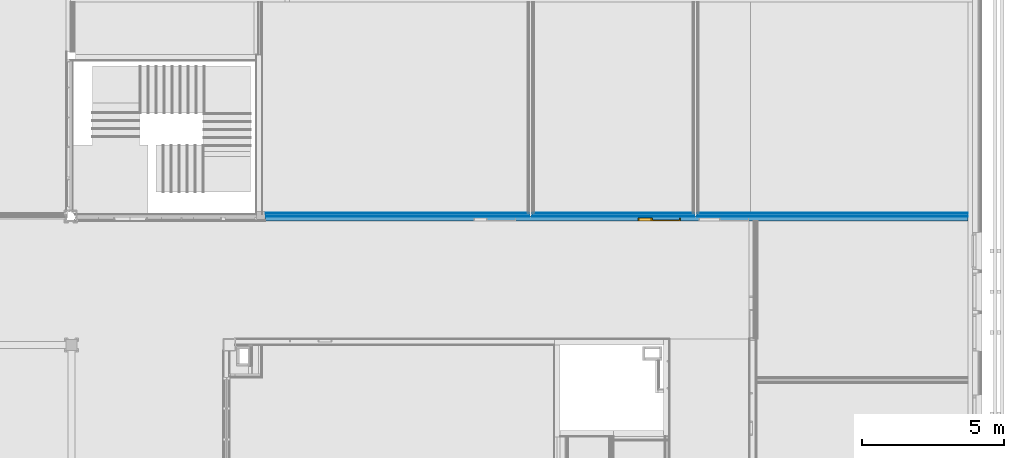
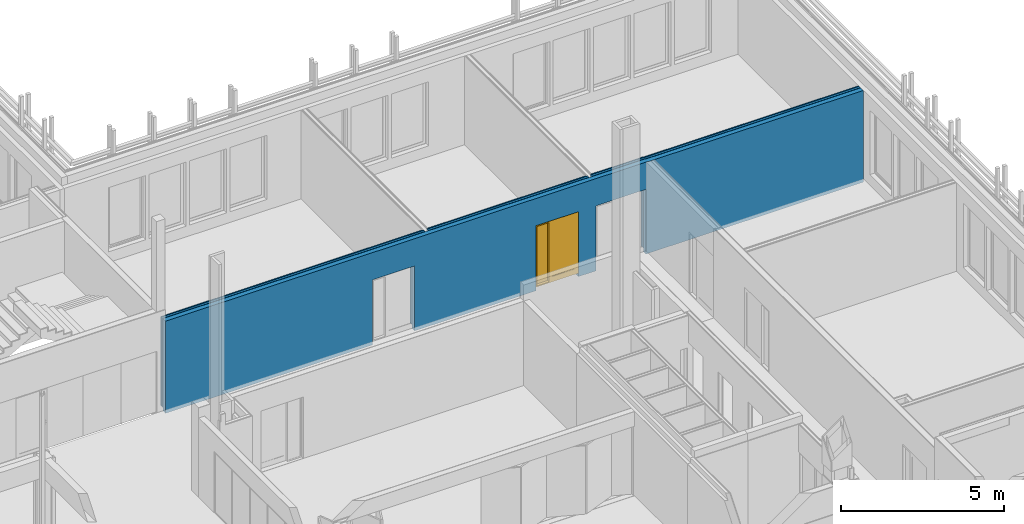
# One storey, part 67 of 139: 7 building element parts, 1 door, 3 openings, 1 element without a shape of its own.
"""IFC2X3 building model written with IfcOpenShell, lengths in millimetres."""

import ifcopenshell
import ifcopenshell.guid

model = None  # the IFC model being written
_history = None  # IfcOwnerHistory: only IFC2X3 demands one
_inside = {}  # id of a spatial element -> (the spatial element, [elements in it])
_under = {}  # id of a project, library or spatial element -> (it, [spatial elements below it])
_declared = {}  # id of a project -> (the project, [libraries it declares])
_typed = {}  # id of a type object -> (the type object, [elements of that type])
_made_of = {}  # id of a material, layer set ... -> (it, [elements and type objects made of it])


def new_model(schema):
    """Start an empty IFC model of exactly this schema.

    Asked for "IFC4X3", IfcOpenShell would pick the latest addendum, in which some entities
    have other attributes; the version numbers below select the first issue.
    IFC2X3 requires an IfcOwnerHistory on every rooted entity: one is made here for all.
    """
    global model, _history
    if schema == "IFC4X3":
        model = ifcopenshell.file(schema_version=(4, 3, 0, 0))
    else:
        model = ifcopenshell.file(schema=schema)
    _inside.clear()
    _under.clear()
    _declared.clear()
    _typed.clear()
    _made_of.clear()
    _history = None
    if model.schema == "IFC2X3":
        org = make("IfcOrganization", Name="unknown")
        user = make(
            "IfcPersonAndOrganization",
            ThePerson=make("IfcPerson", FamilyName="unknown"),
            TheOrganization=org,
        )
        app = make(
            "IfcApplication",
            ApplicationDeveloper=org,
            Version="unknown",
            ApplicationFullName="unknown",
            ApplicationIdentifier="unknown",
        )
        _history = make(
            "IfcOwnerHistory",
            OwningUser=user,
            OwningApplication=app,
            ChangeAction="ADDED",
            CreationDate=0,
        )
    return model


def make(cls, **values):
    """One entity of the class cls with the attributes given. An attribute that is None is left unset."""
    return model.create_entity(
        cls, **{name: value for name, value in values.items() if value is not None}
    )


def entity(cls, *values):
    """Any entity or typed value of the class cls, its attributes in the order of the schema. None: left unset."""
    e = model.create_entity(cls)
    for i, value in enumerate(values):
        if value is not None:
            e[i] = value
    return e


def rooted(cls, **values):
    """An entity with a GlobalId (a new one), such as an element, a storey or a relation."""
    return make(cls, GlobalId=ifcopenshell.guid.new(), OwnerHistory=_history, **values)


def si_unit(unit_type, name, prefix=None):
    """IfcSIUnit, for example si_unit("LENGTHUNIT", "METRE", prefix="MILLI")."""
    return make("IfcSIUnit", UnitType=unit_type, Prefix=prefix, Name=name)


def converted_unit(unit_type, name, factor, base, dimensions=None, offset=None):
    """IfcConversionBasedUnit, such as the inch: factor (a typed value) times the base unit."""
    return make(
        "IfcConversionBasedUnit"
        if offset is None
        else "IfcConversionBasedUnitWithOffset",
        ConversionOffset=offset,
        Dimensions=None
        if dimensions is None
        else entity("IfcDimensionalExponents", *dimensions),
        UnitType=unit_type,
        Name=name,
        ConversionFactor=make(
            "IfcMeasureWithUnit", ValueComponent=factor, UnitComponent=base
        ),
    )


def derived_unit(unit_type, elements):
    """IfcDerivedUnit: a product of units, each with its exponent."""
    return make(
        "IfcDerivedUnit",
        Elements=[
            make("IfcDerivedUnitElement", Unit=unit, Exponent=power)
            for unit, power in elements
        ],
        UnitType=unit_type,
    )


def money_unit(currency):
    """IfcMonetaryUnit."""
    return make("IfcMonetaryUnit", Currency=currency)


def assignment(units):
    """IfcUnitAssignment: the units of a project."""
    return None if units is None else make("IfcUnitAssignment", Units=units)


def point(xyz):
    """IfcCartesianPoint."""
    return None if xyz is None else make("IfcCartesianPoint", Coordinates=xyz)


def direction(xyz):
    """IfcDirection."""
    return None if xyz is None else make("IfcDirection", DirectionRatios=xyz)


def frame(location, z_axis=None, x_axis=None):
    """IfcAxis2Placement3D, a coordinate frame: its origin and axes. An axis left out is left unset."""
    return make(
        "IfcAxis2Placement3D",
        Location=point(location),
        Axis=direction(z_axis),
        RefDirection=direction(x_axis),
    )


def origin_with_axes():
    """The frame at (0, 0, 0) with the z axis (0, 0, 1) and the x axis (1, 0, 0) written out."""
    return frame((0.0, 0.0, 0.0), z_axis=(0.0, 0.0, 1.0), x_axis=(1.0, 0.0, 0.0))


def place(relative_to, where):
    """IfcLocalPlacement: puts the frame where relative to a parent placement (None: the world)."""
    return make(
        "IfcLocalPlacement", PlacementRelTo=relative_to, RelativePlacement=where
    )


def context(
    kind, dimensions, precision=None, world=None, true_north=None, identifier=None
):
    """IfcGeometricRepresentationContext, for example the 3D "Model" context."""
    return make(
        "IfcGeometricRepresentationContext",
        ContextIdentifier=identifier,
        ContextType=kind,
        CoordinateSpaceDimension=dimensions,
        Precision=precision,
        WorldCoordinateSystem=world,
        TrueNorth=true_north,
    )


def subcontext(parent, identifier, kind, view, scale=None):
    """IfcGeometricRepresentationSubContext, for example "Body" below "Model"."""
    return make(
        "IfcGeometricRepresentationSubContext",
        ContextIdentifier=identifier,
        ContextType=kind,
        ParentContext=parent,
        TargetScale=scale,
        TargetView=view,
    )


def project(units=None, contexts=None):
    """IfcProject with its units and contexts."""
    return rooted(
        "IfcProject",
        Name="project",
        RepresentationContexts=contexts,
        UnitsInContext=assignment(units),
    )


def spatial(cls, under=None, at=None, **own):
    """A site, building, storey or space (cls), placed at a placement, below another one or the project."""
    s = rooted(cls, ObjectPlacement=at, **own)
    if under is not None:
        _under.setdefault(under.id(), (under, []))[1].append(s)
    return s


def faces_of(points, faces, orient=None, outer=None):
    """IfcFace entities. A face is a list of loops; a loop is a list of indices into points, from 0.

    orient and outer hold one flag for each loop. By default every Orientation is true, the
    first loop of a face is its IfcFaceOuterBound and the others are IfcFaceBound.
    """
    made = []
    for i, loops in enumerate(faces):
        bounds = []
        for j, loop in enumerate(loops):
            is_outer = j == 0 if outer is None else outer[i][j]
            bounds.append(
                make(
                    "IfcFaceOuterBound" if is_outer else "IfcFaceBound",
                    Bound=make("IfcPolyLoop", Polygon=[points[k] for k in loop]),
                    Orientation=True if orient is None else orient[i][j],
                )
            )
        made.append(make("IfcFace", Bounds=bounds))
    return made


def open_shell(faces, orient=None, outer=None):
    """The faces of one IfcOpenShell. surface_model builds it on its shared points."""
    return ("IfcOpenShell", faces, orient, outer)


def faceted_brep(points, faces, orient=None, outer=None, voids=None):
    """IfcFacetedBrep: a solid bounded by flat faces; with voids (closed shells), ...WithVoids."""
    shared = [point(p) for p in points]
    hull = make("IfcClosedShell", CfsFaces=faces_of(shared, faces, orient, outer))
    if voids is None:
        return make("IfcFacetedBrep", Outer=hull)
    return make(
        "IfcFacetedBrepWithVoids",
        Outer=hull,
        Voids=[
            make(cls, CfsFaces=faces_of(shared, fs, o, b)) for cls, fs, o, b in voids
        ],
    )


def surface_model(cls, points, shells):
    """IfcFaceBasedSurfaceModel or IfcShellBasedSurfaceModel (cls): surfaces that need not close."""
    shared = [point(p) for p in points]
    made = [make(c, CfsFaces=faces_of(shared, fs, o, b)) for c, fs, o, b in shells]
    if cls == "IfcFaceBasedSurfaceModel":
        return make(cls, FbsmFaces=made)
    return make(cls, SbsmBoundary=made)


def shape(context_of_items, identifier, shape_type, items):
    """IfcShapeRepresentation: the items that make up one representation, for example the "Body"."""
    return make(
        "IfcShapeRepresentation",
        ContextOfItems=context_of_items,
        RepresentationIdentifier=identifier,
        RepresentationType=shape_type,
        Items=items,
    )


def source(mapping_origin, context_of_items, identifier, shape_type, items):
    """IfcRepresentationMap: a shape defined once, which mapped items show again and again."""
    return make(
        "IfcRepresentationMap",
        MappingOrigin=mapping_origin,
        MappedRepresentation=shape(context_of_items, identifier, shape_type, items),
    )


def transform(
    local_origin,
    x_axis=None,
    y_axis=None,
    z_axis=None,
    scale=None,
    scale2=None,
    scale3=None,
    uniform=True,
):
    """IfcCartesianTransformationOperator3D, or its non-uniform kind. x_axis, y_axis, z_axis: its Axis1, 2, 3."""
    if uniform:
        return make(
            "IfcCartesianTransformationOperator3D",
            Axis1=direction(x_axis),
            Axis2=direction(y_axis),
            LocalOrigin=point(local_origin),
            Scale=scale,
            Axis3=direction(z_axis),
        )
    return make(
        "IfcCartesianTransformationOperator3DnonUniform",
        Axis1=direction(x_axis),
        Axis2=direction(y_axis),
        LocalOrigin=point(local_origin),
        Scale=scale,
        Axis3=direction(z_axis),
        Scale2=scale2,
        Scale3=scale3,
    )


def mapped(mapping_source, mapping_target):
    """IfcMappedItem: shows the shape of a source again, moved by a transform."""
    return make(
        "IfcMappedItem", MappingSource=mapping_source, MappingTarget=mapping_target
    )


def material(Name=None, Category=None):
    """IfcMaterial."""
    return make("IfcMaterial", Name=Name, Category=Category)


def made_of(thing, what):
    """Note that an element or type object is made of a material, layer set ...; save() writes the relation."""
    if what is not None:
        _made_of.setdefault(what.id(), (what, []))[1].append(thing)
    return thing


def type_object(cls, material=None, **own):
    """A type object (cls), such as IfcWallType, which elements share."""
    return made_of(rooted(cls, **own), material)


def element(
    cls,
    number,
    at=None,
    inside=None,
    cuts=None,
    type_object=None,
    material=None,
    context=None,
    identifier="Body",
    shape_type=None,
    held_by="IfcProductDefinitionShape",
    body=None,
    shapes=None,
    **own,
):
    """One element of the class cls, such as IfcWall. Its Tag is "e" and its number.

    at: its placement. inside: the storey or other place that contains it. cuts: it is an
    opening in that element (IfcRelVoidsElement). A single representation is given by context,
    identifier, shape_type and body (its items); several are given by shapes. held_by: the class
    of the entity that holds the representations. save() writes the other relations.
    """
    e = rooted(cls, Tag="e%d" % number, ObjectPlacement=at, **own)
    if body is not None:
        shapes = [shape(context, identifier, shape_type, body)]
    if shapes is not None:
        e.Representation = make(held_by, Representations=shapes)
    if inside is not None:
        _inside.setdefault(inside.id(), (inside, []))[1].append(e)
    if cuts is not None:
        rooted(
            "IfcRelVoidsElement", RelatingBuildingElement=cuts, RelatedOpeningElement=e
        )
    if type_object is not None:
        _typed.setdefault(type_object.id(), (type_object, []))[1].append(e)
    return made_of(e, material)


def fill(opening, filler):
    """IfcRelFillsElement: the door or window that sits in an opening."""
    return rooted(
        "IfcRelFillsElement",
        RelatingOpeningElement=opening,
        RelatedBuildingElement=filler,
    )


def aggregate(whole, parts):
    """IfcRelAggregates: a whole, such as a stair, and the parts it consists of."""
    return rooted("IfcRelAggregates", RelatingObject=whole, RelatedObjects=parts)


def save(model, path):
    """Write the relations noted so far, then the file.

    IfcRelAggregates (storeys below a building ...), IfcRelContainedInSpatialStructure (elements
    in a storey), IfcRelDefinesByType, IfcRelAssociatesMaterial and IfcRelDeclares: one each for
    every whole, place, type object, material and project.
    """
    for whole, parts in _under.values():
        aggregate(whole, parts)
    for where, things in _inside.values():
        rooted(
            "IfcRelContainedInSpatialStructure",
            RelatedElements=things,
            RelatingStructure=where,
        )
    for kind, things in _typed.values():
        rooted("IfcRelDefinesByType", RelatedObjects=things, RelatingType=kind)
    for what, things in _made_of.values():
        rooted("IfcRelAssociatesMaterial", RelatedObjects=things, RelatingMaterial=what)
    for by, libraries in _declared.values():
        rooted("IfcRelDeclares", RelatingContext=by, RelatedDefinitions=libraries)
    model.write(path)


model = new_model("IFC2X3")

# Units and contexts
model_context = context("Model", 3, precision=0.01, world=origin_with_axes(), true_north=direction((0.0, 1.0)))
body_context = subcontext(model_context, "Body", "Model", "MODEL_VIEW")
ifc_project = project(units=[si_unit("LENGTHUNIT", "METRE", prefix="MILLI"), si_unit("AREAUNIT", "SQUARE_METRE"), si_unit("VOLUMEUNIT", "CUBIC_METRE"), converted_unit("PLANEANGLEUNIT", "DEGREE", entity("IfcPlaneAngleMeasure", 0.0174532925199), si_unit("PLANEANGLEUNIT", "RADIAN"), dimensions=[0, 0, 0, 0, 0, 0, 0]), money_unit("EUR"), converted_unit("TIMEUNIT", "Year", entity("IfcTimeMeasure", 31556926.0), si_unit("TIMEUNIT", "SECOND"), dimensions=[0, 0, 1, 0, 0, 0, 0]), si_unit("MASSUNIT", "GRAM", prefix="KILO"), si_unit("THERMODYNAMICTEMPERATUREUNIT", "DEGREE_CELSIUS"), si_unit("LUMINOUSINTENSITYUNIT", "LUMEN"), si_unit("ENERGYUNIT", "JOULE", prefix="MEGA"), derived_unit("THERMALCONDUCTANCEUNIT", [(si_unit("POWERUNIT", "WATT"), 1), (si_unit("LENGTHUNIT", "METRE"), -1), (si_unit("THERMODYNAMICTEMPERATUREUNIT", "KELVIN"), -1)]), derived_unit("SPECIFICHEATCAPACITYUNIT", [(si_unit("ENERGYUNIT", "JOULE"), 1), (si_unit("MASSUNIT", "GRAM", prefix="KILO"), -1), (si_unit("THERMODYNAMICTEMPERATUREUNIT", "KELVIN"), -1)]), derived_unit("MASSDENSITYUNIT", [(si_unit("MASSUNIT", "GRAM", prefix="KILO"), 1), (si_unit("VOLUMEUNIT", "CUBIC_METRE"), -1)])], contexts=[model_context])

# Site, building, storey
site_placement = place(None, origin_with_axes())
site = spatial("IfcSite", under=ifc_project, at=site_placement, Name="Kolde pst 67a", CompositionType="ELEMENT")
building_placement = place(site_placement, origin_with_axes())
building = spatial("IfcBuilding", under=site, at=building_placement, Name="Riigigümnaasium", CompositionType="ELEMENT")
storey_placement = place(building_placement, frame((0.0, 0.0, 4600.0), z_axis=(0.0, 0.0, 1.0), x_axis=(1.0, 0.0, 0.0)))
storey = spatial("IfcBuildingStorey", under=building, at=storey_placement, Name="2. korrus", CompositionType="ELEMENT", Elevation=4600.0)

# Door
door_style = type_object("IfcDoorStyle", Name="Door with Sidelight on Side 2 25", ConstructionType="NOTDEFINED", OperationType="SINGLE_SWING_LEFT", ParameterTakesPrecedence=False, Sizeable=False)
shared_shape = source(origin_with_axes(), body_context, "Body", "SurfaceModel", [
    faceted_brep([(750.0, 0.0, 0.0), (750.0, -115.0, 0.0), (710.0, -115.0, 0.0), (710.0, 0.0, 0.0), (750.0, 0.0, 2260.0), (750.0, -115.0, 2260.0), (710.0, -115.0, 2260.0), (710.0, -115.0, 40.0), (710.0, 0.0, 40.0), (710.0, 0.0, 2260.0)], [[[0, 1, 2, 3]], [[4, 5, 1, 0]], [[1, 5, 6, 7, 2]], [[3, 2, 7, 8]], [[0, 3, 8, 9, 4]], [[9, 6, 5, 4]], [[8, 7, 6, 9]]]),
    faceted_brep([(250.0, -40.0, 0.0), (250.0, -115.0, 0.0), (250.0, -115.0, 2260.0), (250.0, -40.0, 2260.0), (262.0, -40.0, 0.0), (262.0, 0.0, 0.0), (290.0, 0.0, 0.0), (290.0, -115.0, 0.0), (290.0, -115.0, 40.0), (290.0, -115.0, 2260.0), (262.0, -40.0, 2260.0), (290.0, 0.0, 2260.0), (262.0, 0.0, 2260.0), (290.0, 0.0, 40.0)], [[[0, 1, 2, 3]], [[4, 5, 6, 7, 1, 0]], [[7, 8, 9, 2, 1]], [[10, 3, 2, 9, 11, 12]], [[10, 4, 0, 3]], [[12, 5, 4, 10]], [[12, 11, 13, 6, 5]], [[6, 13, 8, 7]], [[13, 11, 9, 8]]]),
    faceted_brep([(710.0, 0.0, 40.0), (710.0, -115.0, 40.0), (710.0, -115.0, 0.0), (710.0, 0.0, 0.0), (290.0, 0.0, 40.0), (290.0, -115.0, 40.0), (290.0, -115.0, 0.0), (290.0, 0.0, 0.0)], [[[0, 1, 2, 3]], [[4, 5, 1, 0]], [[1, 5, 6, 2]], [[3, 2, 6, 7]], [[0, 3, 7, 4]], [[7, 6, 5, 4]]]),
    faceted_brep([(-722.0, -40.0, 2260.0), (-722.0, 0.0, 2260.0), (-750.0, 0.0, 2260.0), (-750.0, -115.0, 2260.0), (-710.0, -115.0, 2260.0), (-710.0, -40.0, 2260.0), (-722.0, -40.0, 0.0), (-722.0, 0.0, 0.0), (-750.0, 0.0, 0.0), (-750.0, -115.0, 0.0), (-710.0, -115.0, 0.0), (-710.0, -40.0, 0.0)], [[[0, 1, 2, 3, 4, 5]], [[0, 6, 7, 1]], [[7, 8, 2, 1]], [[2, 8, 9, 3]], [[3, 9, 10, 4]], [[5, 4, 10, 11]], [[5, 11, 6, 0]], [[6, 11, 10, 9, 8, 7]]]),
    faceted_brep([(262.0, 0.0, 2272.0), (-722.0, 0.0, 2272.0), (-722.0, 0.0, 2260.0), (-750.0, 0.0, 2260.0), (-750.0, 0.0, 2300.0), (750.0, 0.0, 2300.0), (750.0, 0.0, 2260.0), (710.0, 0.0, 2260.0), (290.0, 0.0, 2260.0), (262.0, 0.0, 2260.0), (262.0, -40.0, 2272.0), (-722.0, -40.0, 2272.0), (-722.0, -40.0, 2260.0), (-710.0, -40.0, 2260.0), (-710.0, -115.0, 2260.0), (-750.0, -115.0, 2260.0), (-750.0, -115.0, 2300.0), (750.0, -115.0, 2300.0), (750.0, -115.0, 2260.0), (710.0, -115.0, 2260.0), (290.0, -115.0, 2260.0), (262.0, -40.0, 2260.0), (250.0, -115.0, 2260.0)], [[[0, 1, 2, 3, 4, 5, 6, 7, 8, 9]], [[0, 10, 11, 1]], [[1, 11, 12, 2]], [[12, 13, 14, 15, 3, 2]], [[4, 3, 15, 16]], [[5, 4, 16, 17]], [[6, 5, 17, 18]], [[7, 6, 18, 19]], [[8, 7, 19, 20]], [[21, 9, 8, 20, 22, 14, 13]], [[9, 21, 10, 0]], [[12, 11, 10, 21, 13]], [[14, 22, 20, 19, 18, 17, 16, 15]]]),
    faceted_brep([(-722.0, 0.0, 200.0), (-622.0, 0.0, 200.0), (-622.0, -40.0, 200.0), (-722.0, -40.0, 200.0), (-722.0, 0.0, 2172.0), (-622.0, 0.0, 2172.0), (-622.0, -40.0, 2172.0), (-722.0, -40.0, 2172.0)], [[[0, 1, 2, 3]], [[0, 4, 5, 1]], [[1, 5, 6, 2]], [[3, 2, 6, 7]], [[4, 0, 3, 7]], [[5, 4, 7, 6]]]),
    faceted_brep([(262.0, 0.0, 200.0), (262.0, 0.0, 2172.0), (262.0, -40.0, 2172.0), (262.0, -40.0, 200.0), (162.0, 0.0, 200.0), (162.0, 0.0, 2172.0), (162.0, -40.0, 2172.0), (162.0, -40.0, 200.0)], [[[0, 1, 2, 3]], [[0, 4, 5, 1]], [[1, 5, 6, 2]], [[3, 2, 6, 7]], [[4, 0, 3, 7]], [[5, 4, 7, 6]]]),
    faceted_brep([(-722.0, 0.0, 0.0), (262.0, 0.0, 0.0), (262.0, -40.0, 0.0), (-722.0, -40.0, 0.0), (-722.0, 0.0, 200.0), (-622.0, 0.0, 200.0), (162.0, 0.0, 200.0), (262.0, 0.0, 200.0), (262.0, -40.0, 200.0), (162.0, -40.0, 200.0), (-622.0, -40.0, 200.0), (-722.0, -40.0, 200.0)], [[[0, 1, 2, 3]], [[0, 4, 5, 6, 7, 1]], [[1, 7, 8, 2]], [[3, 2, 8, 9, 10, 11]], [[4, 0, 3, 11]], [[5, 4, 11, 10]], [[6, 5, 10, 9]], [[7, 6, 9, 8]]]),
    faceted_brep([(-722.0, 0.0, 2272.0), (-722.0, 0.0, 2172.0), (-722.0, -40.0, 2172.0), (-722.0, -40.0, 2272.0), (262.0, 0.0, 2272.0), (262.0, 0.0, 2172.0), (162.0, 0.0, 2172.0), (-622.0, 0.0, 2172.0), (-622.0, -40.0, 2172.0), (162.0, -40.0, 2172.0), (262.0, -40.0, 2172.0), (262.0, -40.0, 2272.0)], [[[0, 1, 2, 3]], [[0, 4, 5, 6, 7, 1]], [[1, 7, 8, 2]], [[3, 2, 8, 9, 10, 11]], [[4, 0, 3, 11]], [[5, 4, 11, 10]], [[6, 5, 10, 9]], [[7, 6, 9, 8]]]),
    surface_model("IfcShellBasedSurfaceModel", [(-622.0, -14.0, 200.0), (-622.0, -14.0, 2172.0), (162.0, -14.0, 2172.0), (162.0, -14.0, 200.0)], [open_shell([[[0, 1, 2, 3]]])]),
    surface_model("IfcShellBasedSurfaceModel", [(-622.0, -26.0, 200.0), (162.0, -26.0, 200.0), (162.0, -26.0, 2172.0), (-622.0, -26.0, 2172.0)], [open_shell([[[0, 1, 2, 3]]])]),
    surface_model("IfcShellBasedSurfaceModel", [(710.0, -91.0, 40.0), (290.0, -91.0, 40.0), (290.0, -91.0, 2260.0), (710.0, -91.0, 2260.0)], [open_shell([[[0, 1, 2, 3]]])]),
    surface_model("IfcShellBasedSurfaceModel", [(710.0, -103.0, 40.0), (710.0, -103.0, 2260.0), (290.0, -103.0, 2260.0), (290.0, -103.0, 40.0)], [open_shell([[[0, 1, 2, 3]]])]),
])
wall_placement = place(storey_placement, frame((59580.0567695, 28589.9996998, -130.0), z_axis=(0.0, 0.0, 1.0), x_axis=(1.0, 0.0, 0.0)))
opening_1_placement = place(wall_placement, frame((13859.9892241, 0.0, 130.0), z_axis=(0.0, 0.0, 1.0), x_axis=(1.0, 0.0, 0.0)))
door_placement = place(opening_1_placement, frame((750.0, 0.0, 0.0), z_axis=(0.0, 0.0, 1.0), x_axis=(-1.0, 0.0, 0.0)))
door = element("IfcDoor", 1, at=door_placement, inside=storey, type_object=door_style, Name="Siseuks", ObjectType="DOOR", OverallHeight=2300.0, OverallWidth=1500.0, context=body_context, shape_type="MappedRepresentation", body=[
    mapped(shared_shape, transform((750.0, 0.0, 0.0))),
])

# Wall, opening
wall_type = type_object("IfcWallType", Name="SS-CLT-16/1_vill75+krohv 52 dB 300", PredefinedType="NOTDEFINED")
wall = element("IfcWall", 2, at=wall_placement, inside=storey, type_object=wall_type, Name="Sisesein")
opening_1 = element("IfcOpeningElement", 3, at=opening_1_placement, cuts=wall, Name="Siseuks", context=body_context, shape_type="Brep", body=[
    faceted_brep([(750.0, -600.0, 2300.0), (750.0, -600.0, 0.0), (750.0, 300.0, 0.0), (750.0, 300.0, 2300.0), (-750.0, -600.0, 2300.0), (-750.0, -600.0, 0.0), (-750.0, 300.0, 0.0), (-750.0, 300.0, 2300.0)], [[[0, 1, 2, 3]], [[0, 4, 5, 1]], [[1, 5, 6, 2]], [[3, 2, 6, 7]], [[4, 0, 3, 7]], [[5, 4, 7, 6]]]),
])

fill(opening_1, door)

# Opening
opening_2_placement = place(wall_placement, frame((16119.9450194, 0.0, 130.0), z_axis=(0.0, 0.0, 1.0), x_axis=(1.0, 0.0, 0.0)))
element("IfcOpeningElement", 4, at=opening_2_placement, cuts=wall, Name="Siseuks", context=body_context, shape_type="Brep", body=[
    faceted_brep([(890.0, -600.0, 2300.0), (890.0, -600.0, 0.0), (890.0, 300.0, 0.0), (890.0, 300.0, 2300.0), (-890.0, -600.0, 2300.0), (-890.0, -600.0, 0.0), (-890.0, 300.0, 0.0), (-890.0, 300.0, 2300.0)], [[[0, 1, 2, 3]], [[0, 4, 5, 1]], [[1, 5, 6, 2]], [[3, 2, 6, 7]], [[4, 0, 3, 7]], [[5, 4, 7, 6]]]),
])

opening_3_placement = place(wall_placement, frame((8069.93597543, 0.0, 130.0), z_axis=(0.0, 0.0, 1.0), x_axis=(1.0, 0.0, 0.0)))
element("IfcOpeningElement", 5, at=opening_3_placement, cuts=wall, Name="Siseuks", context=body_context, shape_type="Brep", body=[
    faceted_brep([(750.0, -600.0, 2300.0), (750.0, -600.0, 0.0), (750.0, 300.0, 0.0), (750.0, 300.0, 2300.0), (-750.0, -600.0, 2300.0), (-750.0, -600.0, 0.0), (-750.0, 300.0, 0.0), (-750.0, 300.0, 2300.0)], [[[0, 1, 2, 3]], [[0, 4, 5, 1]], [[1, 5, 6, 2]], [[3, 2, 6, 7]], [[4, 0, 3, 7]], [[5, 4, 7, 6]]]),
])

# Building element part
ifc_material_1 = material(Name="_VIIMISTLUSKIHT - viimistlus vastavalt SA osale")
building_element_part_1_placement = place(wall_placement, origin_with_axes())
building_element_part_1 = element("IfcBuildingElementPart", 6, at=building_element_part_1_placement, material=ifc_material_1, Name="_VIIMISTLUSKIHT - viimistlus vastavalt SA osale", context=body_context, shape_type="Brep", body=[
    faceted_brep([(13109.9892241, 300.0, 2430.0), (13109.9892241, 300.0, 130.0), (9449.94161294, 300.0, 130.0), (9449.94161294, 300.0, 3450.0), (15029.9892602, 300.0, 3450.0), (15029.9892602, 300.0, 130.0), (14609.9892241, 300.0, 130.0), (14609.9892241, 300.0, 2430.0), (13109.9892241, 290.0, 2430.0), (13109.9892241, 290.0, 130.0), (9449.94161294, 290.0, 130.0), (9449.94161294, 290.0, 3450.0), (15029.9892602, 290.0, 3450.0), (15029.9892602, 290.0, 130.0), (14609.9892241, 290.0, 130.0), (14609.9892241, 290.0, 2430.0)], [[[0, 1, 2, 3, 4, 5, 6, 7]], [[1, 0, 8, 9]], [[1, 9, 10, 2]], [[3, 2, 10, 11]], [[4, 3, 11, 12]], [[12, 13, 5, 4]], [[14, 6, 5, 13]], [[7, 6, 14, 15]], [[0, 7, 15, 8]], [[15, 14, 13, 12, 11, 10, 9, 8]]]),
    faceted_brep([(7319.93597543, 300.0, 2430.0), (7319.93597543, 300.0, 130.0), (0.0, 300.0, 130.0), (0.0, 300.0, 3450.0), (9239.94161294, 300.0, 3450.0), (9239.94161294, 300.0, 130.0), (8819.93597543, 300.0, 130.0), (8819.93597543, 300.0, 2430.0), (7319.93597543, 290.0, 2430.0), (7319.93597543, 290.0, 130.0), (0.0, 290.0, 130.0), (0.0, 290.0, 3450.0), (9239.94161294, 290.0, 3450.0), (9239.94161294, 290.0, 130.0), (8819.93597543, 290.0, 130.0), (8819.93597543, 290.0, 2430.0)], [[[0, 1, 2, 3, 4, 5, 6, 7]], [[1, 0, 8, 9]], [[1, 9, 10, 2]], [[3, 2, 10, 11]], [[4, 3, 11, 12]], [[12, 13, 5, 4]], [[14, 6, 5, 13]], [[7, 6, 14, 15]], [[0, 7, 15, 8]], [[15, 14, 13, 12, 11, 10, 9, 8]]]),
    faceted_brep([(17009.9450194, 300.0, 2430.0), (15239.9892602, 300.0, 2430.0), (15239.9892602, 300.0, 3450.0), (17069.9380539, 300.0, 3450.0), (17069.9380539, 300.0, 3436.9), (24699.9425584, 300.0, 3436.9), (24699.9425584, 300.0, 130.0), (17009.9450194, 300.0, 130.0), (17009.9450194, 290.0, 2430.0), (15239.9892602, 290.0, 2430.0), (15239.9892602, 290.0, 3450.0), (17069.9380539, 290.0, 3450.0), (17069.9380539, 290.0, 3436.9), (24699.9425584, 290.0, 3436.9), (24699.9425584, 290.0, 130.0), (17009.9450194, 290.0, 130.0)], [[[0, 1, 2, 3, 4, 5, 6, 7]], [[1, 0, 8, 9]], [[1, 9, 10, 2]], [[3, 2, 10, 11]], [[11, 12, 4, 3]], [[5, 4, 12, 13]], [[13, 14, 6, 5]], [[15, 7, 6, 14]], [[0, 7, 15, 8]], [[8, 15, 14, 13, 12, 11, 10, 9]]]),
])

ifc_material_2 = material(Name="_PLAATMATERJAL - tuletõkkekipsplaat, Knauf Red GKF või samaväärne")
building_element_part_2_placement = place(wall_placement, origin_with_axes())
building_element_part_2 = element("IfcBuildingElementPart", 7, at=building_element_part_2_placement, material=ifc_material_2, Name="_PLAATMATERJAL - tuletõkkekipsplaat, Knauf Red GKF või samaväärne", context=body_context, shape_type="Brep", body=[
    faceted_brep([(13109.9892241, 290.0, 2430.0), (13109.9892241, 290.0, 130.0), (13109.9892241, 290.0, 127.0), (9434.94161294, 290.0, 127.0), (9434.94161294, 290.0, 3450.0), (15044.9892602, 290.0, 3450.0), (15044.9892602, 290.0, 127.0), (14609.9892241, 290.0, 127.0), (14609.9892241, 290.0, 130.0), (14609.9892241, 290.0, 2430.0), (13109.9892241, 275.0, 2430.0), (13109.9892241, 275.0, 130.0), (13109.9892241, 275.0, 127.0), (9434.94161294, 275.0, 127.0), (9434.94161294, 275.0, 3450.0), (15044.9892602, 275.0, 3450.0), (15044.9892602, 275.0, 127.0), (14609.9892241, 275.0, 127.0), (14609.9892241, 275.0, 130.0), (14609.9892241, 275.0, 2430.0)], [[[0, 1, 2, 3, 4, 5, 6, 7, 8, 9]], [[1, 0, 10, 11]], [[1, 11, 12, 2]], [[12, 13, 3, 2]], [[4, 3, 13, 14]], [[5, 4, 14, 15]], [[15, 16, 6, 5]], [[7, 6, 16, 17]], [[18, 8, 7, 17]], [[9, 8, 18, 19]], [[0, 9, 19, 10]], [[19, 18, 17, 16, 15, 14, 13, 12, 11, 10]]]),
    faceted_brep([(7319.93597543, 290.0, 2430.0), (7319.93597543, 290.0, 130.0), (7319.93597543, 290.0, 127.0), (0.0, 290.0, 127.0), (0.0, 290.0, 3450.0), (9254.94161294, 290.0, 3450.0), (9254.94161294, 290.0, 127.0), (8819.93597543, 290.0, 127.0), (8819.93597543, 290.0, 130.0), (8819.93597543, 290.0, 2430.0), (7319.93597543, 275.0, 2430.0), (7319.93597543, 275.0, 130.0), (7319.93597543, 275.0, 127.0), (0.0, 275.0, 127.0), (0.0, 275.0, 3450.0), (9254.94161294, 275.0, 3450.0), (9254.94161294, 275.0, 127.0), (8819.93597543, 275.0, 127.0), (8819.93597543, 275.0, 130.0), (8819.93597543, 275.0, 2430.0)], [[[0, 1, 2, 3, 4, 5, 6, 7, 8, 9]], [[1, 0, 10, 11]], [[1, 11, 12, 2]], [[12, 13, 3, 2]], [[4, 3, 13, 14]], [[5, 4, 14, 15]], [[15, 16, 6, 5]], [[7, 6, 16, 17]], [[18, 8, 7, 17]], [[9, 8, 18, 19]], [[0, 9, 19, 10]], [[19, 18, 17, 16, 15, 14, 13, 12, 11, 10]]]),
    faceted_brep([(15229.9450194, 290.0, 2430.0), (15229.9450194, 290.0, 130.0), (15229.9450194, 290.0, 127.0), (15224.9892602, 290.0, 127.0), (15224.9892602, 290.0, 3450.0), (17069.9380539, 290.0, 3450.0), (17069.9380539, 290.0, 3436.9), (24699.9425584, 290.0, 3436.9), (24699.9425584, 290.0, 127.0), (17009.9450194, 290.0, 127.0), (17009.9450194, 290.0, 130.0), (17009.9450194, 290.0, 2430.0), (15229.9450194, 275.0, 2430.0), (15229.9450194, 275.0, 130.0), (15229.9450194, 275.0, 127.0), (15224.9892602, 275.0, 127.0), (15224.9892602, 275.0, 3450.0), (17069.9380539, 275.0, 3450.0), (17069.9380539, 275.0, 3436.9), (24699.9425584, 275.0, 3436.9), (24699.9425584, 275.0, 127.0), (17009.9450194, 275.0, 127.0), (17009.9450194, 275.0, 130.0), (17009.9450194, 275.0, 2430.0)], [[[0, 1, 2, 3, 4, 5, 6, 7, 8, 9, 10, 11]], [[1, 0, 12, 13]], [[1, 13, 14, 2]], [[14, 15, 3, 2]], [[4, 3, 15, 16]], [[5, 4, 16, 17]], [[17, 18, 6, 5]], [[7, 6, 18, 19]], [[19, 20, 8, 7]], [[20, 21, 9, 8]], [[22, 10, 9, 21]], [[11, 10, 22, 23]], [[0, 11, 23, 12]], [[23, 22, 21, 20, 19, 18, 17, 16, 15, 14, 13, 12]]]),
])

building_element_part_3_placement = place(wall_placement, origin_with_axes())
building_element_part_3 = element("IfcBuildingElementPart", 8, at=building_element_part_3_placement, material=ifc_material_2, Name="_PLAATMATERJAL - tuletõkkekipsplaat, Knauf Red GKF või samaväärne", context=body_context, shape_type="Brep", body=[
    faceted_brep([(13109.9892241, 275.0, 2430.0), (13109.9892241, 275.0, 130.0), (13109.9892241, 275.0, 127.0), (9394.94161294, 275.0, 127.0), (9394.94161294, 275.0, 3450.0), (15084.9892602, 275.0, 3450.0), (15084.9892602, 275.0, 127.0), (14609.9892241, 275.0, 127.0), (14609.9892241, 275.0, 130.0), (14609.9892241, 275.0, 2430.0), (13109.9892241, 260.0, 2430.0), (13109.9892241, 260.0, 130.0), (13109.9892241, 260.0, 127.0), (9394.94161294, 260.0, 127.0), (9394.94161294, 260.0, 3450.0), (15084.9892602, 260.0, 3450.0), (15084.9892602, 260.0, 127.0), (14609.9892241, 260.0, 127.0), (14609.9892241, 260.0, 130.0), (14609.9892241, 260.0, 2430.0)], [[[0, 1, 2, 3, 4, 5, 6, 7, 8, 9]], [[1, 0, 10, 11]], [[1, 11, 12, 2]], [[12, 13, 3, 2]], [[4, 3, 13, 14]], [[5, 4, 14, 15]], [[15, 16, 6, 5]], [[7, 6, 16, 17]], [[18, 8, 7, 17]], [[9, 8, 18, 19]], [[0, 9, 19, 10]], [[19, 18, 17, 16, 15, 14, 13, 12, 11, 10]]]),
    faceted_brep([(7319.93597543, 275.0, 2430.0), (7319.93597543, 275.0, 130.0), (7319.93597543, 275.0, 127.0), (0.0, 275.0, 127.0), (0.0, 275.0, 3450.0), (9294.94161294, 275.0, 3450.0), (9294.94161294, 275.0, 127.0), (8819.93597543, 275.0, 127.0), (8819.93597543, 275.0, 130.0), (8819.93597543, 275.0, 2430.0), (7319.93597543, 260.0, 2430.0), (7319.93597543, 260.0, 130.0), (7319.93597543, 260.0, 127.0), (0.0, 260.0, 127.0), (0.0, 260.0, 3450.0), (9294.94161294, 260.0, 3450.0), (9294.94161294, 260.0, 127.0), (8819.93597543, 260.0, 127.0), (8819.93597543, 260.0, 130.0), (8819.93597543, 260.0, 2430.0)], [[[0, 1, 2, 3, 4, 5, 6, 7, 8, 9]], [[1, 0, 10, 11]], [[1, 11, 12, 2]], [[12, 13, 3, 2]], [[4, 3, 13, 14]], [[5, 4, 14, 15]], [[15, 16, 6, 5]], [[7, 6, 16, 17]], [[18, 8, 7, 17]], [[9, 8, 18, 19]], [[0, 9, 19, 10]], [[19, 18, 17, 16, 15, 14, 13, 12, 11, 10]]]),
    faceted_brep([(15229.9450194, 275.0, 2430.0), (15229.9450194, 275.0, 130.0), (15229.9450194, 275.0, 127.0), (15184.9892602, 275.0, 127.0), (15184.9892602, 275.0, 3450.0), (17069.9380539, 275.0, 3450.0), (17069.9380539, 275.0, 3436.9), (24699.9425584, 275.0, 3436.9), (24699.9425584, 275.0, 127.0), (17009.9450194, 275.0, 127.0), (17009.9450194, 275.0, 130.0), (17009.9450194, 275.0, 2430.0), (15229.9450194, 260.0, 2430.0), (15229.9450194, 260.0, 130.0), (15229.9450194, 260.0, 127.0), (15184.9892602, 260.0, 127.0), (15184.9892602, 260.0, 3450.0), (17069.9380539, 260.0, 3450.0), (17069.9380539, 260.0, 3436.9), (24699.9425584, 260.0, 3436.9), (24699.9425584, 260.0, 127.0), (17009.9450194, 260.0, 127.0), (17009.9450194, 260.0, 130.0), (17009.9450194, 260.0, 2430.0)], [[[0, 1, 2, 3, 4, 5, 6, 7, 8, 9, 10, 11]], [[1, 0, 12, 13]], [[1, 13, 14, 2]], [[14, 15, 3, 2]], [[4, 3, 15, 16]], [[5, 4, 16, 17]], [[17, 18, 6, 5]], [[7, 6, 18, 19]], [[19, 20, 8, 7]], [[20, 21, 9, 8]], [[22, 10, 9, 21]], [[11, 10, 22, 23]], [[0, 11, 23, 12]], [[23, 22, 21, 20, 19, 18, 17, 16, 15, 14, 13, 12]]]),
])

ifc_material_3 = material(Name="_PLAATMATERJAL - OSB3 plaat")
building_element_part_4_placement = place(wall_placement, origin_with_axes())
building_element_part_4 = element("IfcBuildingElementPart", 9, at=building_element_part_4_placement, material=ifc_material_3, Name="_PLAATMATERJAL - OSB3 plaat", context=body_context, shape_type="Brep", body=[
    faceted_brep([(13109.9892241, 260.0, 2430.0), (13109.9892241, 260.0, 130.0), (13109.9892241, 260.0, 127.0), (9394.94161294, 260.0, 127.0), (9394.94161294, 260.0, 3450.0), (15084.9892602, 260.0, 3450.0), (15084.9892602, 260.0, 127.0), (14609.9892241, 260.0, 127.0), (14609.9892241, 260.0, 130.0), (14609.9892241, 260.0, 2430.0), (13109.9892241, 250.0, 2430.0), (13109.9892241, 250.0, 130.0), (13109.9892241, 250.0, 127.0), (9394.94161294, 250.0, 127.0), (9394.94161294, 250.0, 3450.0), (15084.9892602, 250.0, 3450.0), (15084.9892602, 250.0, 127.0), (14609.9892241, 250.0, 127.0), (14609.9892241, 250.0, 130.0), (14609.9892241, 250.0, 2430.0)], [[[0, 1, 2, 3, 4, 5, 6, 7, 8, 9]], [[1, 0, 10, 11]], [[1, 11, 12, 2]], [[12, 13, 3, 2]], [[4, 3, 13, 14]], [[5, 4, 14, 15]], [[15, 16, 6, 5]], [[7, 6, 16, 17]], [[18, 8, 7, 17]], [[9, 8, 18, 19]], [[0, 9, 19, 10]], [[19, 18, 17, 16, 15, 14, 13, 12, 11, 10]]]),
    faceted_brep([(7319.93597543, 260.0, 2430.0), (7319.93597543, 260.0, 130.0), (7319.93597543, 260.0, 127.0), (0.0, 260.0, 127.0), (0.0, 260.0, 3450.0), (9294.94161294, 260.0, 3450.0), (9294.94161294, 260.0, 127.0), (8819.93597543, 260.0, 127.0), (8819.93597543, 260.0, 130.0), (8819.93597543, 260.0, 2430.0), (7319.93597543, 250.0, 2430.0), (7319.93597543, 250.0, 130.0), (7319.93597543, 250.0, 127.0), (0.0, 250.0, 127.0), (0.0, 250.0, 3450.0), (9294.94161294, 250.0, 3450.0), (9294.94161294, 250.0, 127.0), (8819.93597543, 250.0, 127.0), (8819.93597543, 250.0, 130.0), (8819.93597543, 250.0, 2430.0)], [[[0, 1, 2, 3, 4, 5, 6, 7, 8, 9]], [[1, 0, 10, 11]], [[1, 11, 12, 2]], [[12, 13, 3, 2]], [[4, 3, 13, 14]], [[5, 4, 14, 15]], [[15, 16, 6, 5]], [[7, 6, 16, 17]], [[18, 8, 7, 17]], [[9, 8, 18, 19]], [[0, 9, 19, 10]], [[19, 18, 17, 16, 15, 14, 13, 12, 11, 10]]]),
    faceted_brep([(15229.9450194, 260.0, 2430.0), (15229.9450194, 260.0, 130.0), (15229.9450194, 260.0, 127.0), (15184.9892602, 260.0, 127.0), (15184.9892602, 260.0, 3450.0), (17069.9380539, 260.0, 3450.0), (17069.9380539, 260.0, 3436.9), (24699.9425584, 260.0, 3436.9), (24699.9425584, 260.0, 127.0), (17009.9450194, 260.0, 127.0), (17009.9450194, 260.0, 130.0), (17009.9450194, 260.0, 2430.0), (15229.9450194, 250.0, 2430.0), (15229.9450194, 250.0, 130.0), (15229.9450194, 250.0, 127.0), (15184.9892602, 250.0, 127.0), (15184.9892602, 250.0, 3450.0), (17069.9380539, 250.0, 3450.0), (17069.9380539, 250.0, 3436.9), (24699.9425584, 250.0, 3436.9), (24699.9425584, 250.0, 127.0), (17009.9450194, 250.0, 127.0), (17009.9450194, 250.0, 130.0), (17009.9450194, 250.0, 2430.0)], [[[0, 1, 2, 3, 4, 5, 6, 7, 8, 9, 10, 11]], [[1, 0, 12, 13]], [[1, 13, 14, 2]], [[14, 15, 3, 2]], [[4, 3, 15, 16]], [[5, 4, 16, 17]], [[17, 18, 6, 5]], [[7, 6, 18, 19]], [[19, 20, 8, 7]], [[20, 21, 9, 8]], [[22, 10, 9, 21]], [[11, 10, 22, 23]], [[0, 11, 23, 12]], [[23, 22, 21, 20, 19, 18, 17, 16, 15, 14, 13, 12]]]),
])

ifc_material_4 = material(Name="_KARKASS - metallkarkass CW 75/50/06 ja UW 75/40/06, samm 600, vahel mineraalvill, helineeldetegur αw = 1.0,  ISOVER ACOUSTIC 75mm või samaväärne")
building_element_part_5_placement = place(wall_placement, origin_with_axes())
building_element_part_5 = element("IfcBuildingElementPart", 10, at=building_element_part_5_placement, material=ifc_material_4, Name="_KARKASS - metallkarkass CW 75/50/06 ja UW 75/40/06, samm 600, vahel mineraalvill, helineeldetegur αw = 1.0,  ISOVER ACOUSTIC 75mm või samaväärne", context=body_context, shape_type="Brep", body=[
    faceted_brep([(13109.9892241, 250.0, 2430.0), (13109.9892241, 250.0, 130.0), (13109.9892241, 250.0, 127.0), (9394.94161294, 250.0, 127.0), (9394.94161294, 250.0, 3450.0), (15084.9892602, 250.0, 3450.0), (15084.9892602, 250.0, 127.0), (14609.9892241, 250.0, 127.0), (14609.9892241, 250.0, 130.0), (14609.9892241, 250.0, 2430.0), (13109.9892241, 175.0, 2430.0), (13109.9892241, 175.0, 130.0), (13109.9892241, 175.0, 127.0), (9394.94161294, 175.0, 127.0), (9394.94161294, 175.0, 3450.0), (15084.9892602, 175.0, 3450.0), (15084.9892602, 175.0, 127.0), (14609.9892241, 175.0, 127.0), (14609.9892241, 175.0, 130.0), (14609.9892241, 175.0, 2430.0)], [[[0, 1, 2, 3, 4, 5, 6, 7, 8, 9]], [[1, 0, 10, 11]], [[1, 11, 12, 2]], [[12, 13, 3, 2]], [[4, 3, 13, 14]], [[5, 4, 14, 15]], [[15, 16, 6, 5]], [[7, 6, 16, 17]], [[18, 8, 7, 17]], [[9, 8, 18, 19]], [[0, 9, 19, 10]], [[19, 18, 17, 16, 15, 14, 13, 12, 11, 10]]]),
    faceted_brep([(7319.93597543, 250.0, 2430.0), (7319.93597543, 250.0, 130.0), (7319.93597543, 250.0, 127.0), (0.0, 250.0, 127.0), (0.0, 250.0, 3450.0), (9294.94161294, 250.0, 3450.0), (9294.94161294, 250.0, 127.0), (8819.93597543, 250.0, 127.0), (8819.93597543, 250.0, 130.0), (8819.93597543, 250.0, 2430.0), (7319.93597543, 175.0, 2430.0), (7319.93597543, 175.0, 130.0), (7319.93597543, 175.0, 127.0), (0.0, 175.0, 127.0), (0.0, 175.0, 3450.0), (9294.94161294, 175.0, 3450.0), (9294.94161294, 175.0, 127.0), (8819.93597543, 175.0, 127.0), (8819.93597543, 175.0, 130.0), (8819.93597543, 175.0, 2430.0)], [[[0, 1, 2, 3, 4, 5, 6, 7, 8, 9]], [[1, 0, 10, 11]], [[1, 11, 12, 2]], [[12, 13, 3, 2]], [[4, 3, 13, 14]], [[5, 4, 14, 15]], [[15, 16, 6, 5]], [[7, 6, 16, 17]], [[18, 8, 7, 17]], [[9, 8, 18, 19]], [[0, 9, 19, 10]], [[19, 18, 17, 16, 15, 14, 13, 12, 11, 10]]]),
    faceted_brep([(15229.9450194, 250.0, 2430.0), (15229.9450194, 250.0, 130.0), (15229.9450194, 250.0, 127.0), (15184.9892602, 250.0, 127.0), (15184.9892602, 250.0, 3450.0), (17069.9380539, 250.0, 3450.0), (17069.9380539, 250.0, 3436.9), (24699.9425584, 250.0, 3436.9), (24699.9425584, 250.0, 127.0), (17009.9450194, 250.0, 127.0), (17009.9450194, 250.0, 130.0), (17009.9450194, 250.0, 2430.0), (15229.9450194, 175.0, 2430.0), (15229.9450194, 175.0, 130.0), (15229.9450194, 175.0, 127.0), (15184.9892602, 175.0, 127.0), (15184.9892602, 175.0, 3450.0), (17069.9380539, 175.0, 3450.0), (17069.9380539, 175.0, 3436.9), (24699.9425584, 175.0, 3436.9), (24699.9425584, 175.0, 127.0), (17009.9450194, 175.0, 127.0), (17009.9450194, 175.0, 130.0), (17009.9450194, 175.0, 2430.0)], [[[0, 1, 2, 3, 4, 5, 6, 7, 8, 9, 10, 11]], [[1, 0, 12, 13]], [[1, 13, 14, 2]], [[14, 15, 3, 2]], [[4, 3, 15, 16]], [[5, 4, 16, 17]], [[17, 18, 6, 5]], [[7, 6, 18, 19]], [[19, 20, 8, 7]], [[20, 21, 9, 8]], [[22, 10, 9, 21]], [[11, 10, 22, 23]], [[0, 11, 23, 12]], [[23, 22, 21, 20, 19, 18, 17, 16, 15, 14, 13, 12]]]),
])

ifc_material_5 = material(Name="_ÕHKVAHE")
building_element_part_6_placement = place(wall_placement, origin_with_axes())
building_element_part_6 = element("IfcBuildingElementPart", 11, at=building_element_part_6_placement, material=ifc_material_5, Name="_ÕHKVAHE", context=body_context, shape_type="Brep", body=[
    faceted_brep([(13109.9892241, 175.0, 2430.0), (13109.9892241, 175.0, 130.0), (13109.9892241, 175.0, 127.0), (9394.94161294, 175.0, 127.0), (9394.94161294, 175.0, 3450.0), (15084.9892602, 175.0, 3450.0), (15084.9892602, 175.0, 127.0), (14609.9892241, 175.0, 127.0), (14609.9892241, 175.0, 130.0), (14609.9892241, 175.0, 2430.0), (13109.9892241, 160.0, 2430.0), (13109.9892241, 160.0, 130.0), (13109.9892241, 160.0, 127.0), (9394.94161294, 160.0, 127.0), (9394.94161294, 160.0, 3450.0), (15084.9892602, 160.0, 3450.0), (15084.9892602, 160.0, 127.0), (14609.9892241, 160.0, 127.0), (14609.9892241, 160.0, 130.0), (14609.9892241, 160.0, 2430.0)], [[[0, 1, 2, 3, 4, 5, 6, 7, 8, 9]], [[1, 0, 10, 11]], [[1, 11, 12, 2]], [[12, 13, 3, 2]], [[4, 3, 13, 14]], [[5, 4, 14, 15]], [[15, 16, 6, 5]], [[7, 6, 16, 17]], [[18, 8, 7, 17]], [[9, 8, 18, 19]], [[0, 9, 19, 10]], [[19, 18, 17, 16, 15, 14, 13, 12, 11, 10]]]),
    faceted_brep([(7319.93597543, 175.0, 2430.0), (7319.93597543, 175.0, 130.0), (7319.93597543, 175.0, 127.0), (0.0, 175.0, 127.0), (0.0, 175.0, 3450.0), (9294.94161294, 175.0, 3450.0), (9294.94161294, 175.0, 127.0), (8819.93597543, 175.0, 127.0), (8819.93597543, 175.0, 130.0), (8819.93597543, 175.0, 2430.0), (7319.93597543, 160.0, 2430.0), (7319.93597543, 160.0, 130.0), (7319.93597543, 160.0, 127.0), (0.0, 160.0, 127.0), (0.0, 160.0, 3450.0), (9294.94161294, 160.0, 3450.0), (9294.94161294, 160.0, 127.0), (8819.93597543, 160.0, 127.0), (8819.93597543, 160.0, 130.0), (8819.93597543, 160.0, 2430.0)], [[[0, 1, 2, 3, 4, 5, 6, 7, 8, 9]], [[1, 0, 10, 11]], [[1, 11, 12, 2]], [[12, 13, 3, 2]], [[4, 3, 13, 14]], [[5, 4, 14, 15]], [[15, 16, 6, 5]], [[7, 6, 16, 17]], [[18, 8, 7, 17]], [[9, 8, 18, 19]], [[0, 9, 19, 10]], [[19, 18, 17, 16, 15, 14, 13, 12, 11, 10]]]),
    faceted_brep([(15229.9450194, 175.0, 2430.0), (15229.9450194, 175.0, 130.0), (15229.9450194, 175.0, 127.0), (15184.9892602, 175.0, 127.0), (15184.9892602, 175.0, 3450.0), (17069.9380539, 175.0, 3450.0), (17069.9380539, 175.0, 3436.9), (24699.9425584, 175.0, 3436.9), (24699.9425584, 175.0, 127.0), (17009.9450194, 175.0, 127.0), (17009.9450194, 175.0, 130.0), (17009.9450194, 175.0, 2430.0), (15229.9450194, 160.0, 2430.0), (15229.9450194, 160.0, 130.0), (15229.9450194, 160.0, 127.0), (15184.9892602, 160.0, 127.0), (15184.9892602, 160.0, 3450.0), (17069.9380539, 160.0, 3450.0), (17069.9380539, 160.0, 3436.9), (24699.9425584, 160.0, 3436.9), (24699.9425584, 160.0, 127.0), (17009.9450194, 160.0, 127.0), (17009.9450194, 160.0, 130.0), (17009.9450194, 160.0, 2430.0)], [[[0, 1, 2, 3, 4, 5, 6, 7, 8, 9, 10, 11]], [[1, 0, 12, 13]], [[1, 13, 14, 2]], [[14, 15, 3, 2]], [[4, 3, 15, 16]], [[5, 4, 16, 17]], [[17, 18, 6, 5]], [[7, 6, 18, 19]], [[19, 20, 8, 7]], [[20, 21, 9, 8]], [[22, 10, 9, 21]], [[11, 10, 22, 23]], [[0, 11, 23, 12]], [[23, 22, 21, 20, 19, 18, 17, 16, 15, 14, 13, 12]]]),
])

ifc_material_6 = material(Name="_KANDETARIND - CLT ristkihtliimpuit vastavalt EK osale, CLT paigaldusvuugid teibitakse ROTHOBLAAS teibiga")
building_element_part_7_placement = place(wall_placement, origin_with_axes())
building_element_part_7 = element("IfcBuildingElementPart", 12, at=building_element_part_7_placement, material=ifc_material_6, Name="_KANDETARIND - CLT ristkihtliimpuit vastavalt EK osale, CLT paigaldusvuugid teibitakse ROTHOBLAAS teibiga", context=body_context, shape_type="Brep", body=[
    faceted_brep([(7319.93597543, 160.0, 2430.0), (7319.93597543, 160.0, 130.0), (7319.93597543, 160.0, 0.0), (0.0, 160.0, 0.0), (0.0, 160.0, 3450.0), (17069.9380539, 160.0, 3450.0), (17069.9380539, 160.0, 3436.9), (24699.9425584, 160.0, 3436.9), (24699.9425584, 160.0, 6.9), (17069.9452935, 160.0, 6.9), (17069.9452935, 160.0, 0.0), (17009.9450194, 160.0, 0.0), (17009.9450194, 160.0, 130.0), (17009.9450194, 160.0, 2430.0), (15229.9450194, 160.0, 2430.0), (15229.9450194, 160.0, 130.0), (15229.9450194, 160.0, 0.0), (14609.9892241, 160.0, 0.0), (14609.9892241, 160.0, 130.0), (14609.9892241, 160.0, 2430.0), (13109.9892241, 160.0, 2430.0), (13109.9892241, 160.0, 130.0), (13109.9892241, 160.0, 0.0), (8819.93597543, 160.0, 0.0), (8819.93597543, 160.0, 130.0), (8819.93597543, 160.0, 2430.0), (7319.93597543, 0.0, 2430.0), (7319.93597543, 0.0, 130.0), (7319.93597543, 0.0, 0.0), (0.0, 0.0, 0.0), (0.0, 0.0, 3450.0), (17069.9380539, 0.0, 3450.0), (17069.9380539, 0.0, 3436.9), (24699.9425584, 0.0, 3436.9), (24699.9425584, 0.0, 6.9), (17069.9452935, 0.0, 6.9), (17069.9452935, 0.0, 0.0), (17009.9450194, 0.0, 0.0), (17009.9450194, 0.0, 130.0), (17009.9450194, 0.0, 2430.0), (15229.9450194, 0.0, 2430.0), (15229.9450194, 0.0, 130.0), (15229.9450194, 0.0, 0.0), (14609.9892241, 0.0, 0.0), (14609.9892241, 0.0, 130.0), (14609.9892241, 0.0, 2430.0), (13109.9892241, 0.0, 2430.0), (13109.9892241, 0.0, 130.0), (13109.9892241, 0.0, 0.0), (8819.93597543, 0.0, 0.0), (8819.93597543, 0.0, 130.0), (8819.93597543, 0.0, 2430.0)], [[[0, 1, 2, 3, 4, 5, 6, 7, 8, 9, 10, 11, 12, 13, 14, 15, 16, 17, 18, 19, 20, 21, 22, 23, 24, 25]], [[1, 0, 26, 27]], [[1, 27, 28, 2]], [[3, 2, 28, 29]], [[29, 30, 4, 3]], [[30, 31, 5, 4]], [[6, 5, 31, 32]], [[32, 33, 7, 6]], [[8, 7, 33, 34]], [[35, 9, 8, 34]], [[36, 10, 9, 35]], [[11, 10, 36, 37]], [[12, 11, 37, 38]], [[12, 38, 39, 13]], [[13, 39, 40, 14]], [[14, 40, 41, 15]], [[41, 42, 16, 15]], [[17, 16, 42, 43]], [[17, 43, 44, 18]], [[44, 45, 19, 18]], [[45, 46, 20, 19]], [[46, 47, 21, 20]], [[48, 22, 21, 47]], [[23, 22, 48, 49]], [[50, 24, 23, 49]], [[25, 24, 50, 51]], [[0, 25, 51, 26]], [[51, 50, 49, 48, 47, 46, 45, 44, 43, 42, 41, 40, 39, 38, 37, 36, 35, 34, 33, 32, 31, 30, 29, 28, 27, 26]]]),
])

aggregate(wall, [building_element_part_1, building_element_part_2, building_element_part_3, building_element_part_4, building_element_part_5, building_element_part_6, building_element_part_7])

save(model, "model.ifc")
